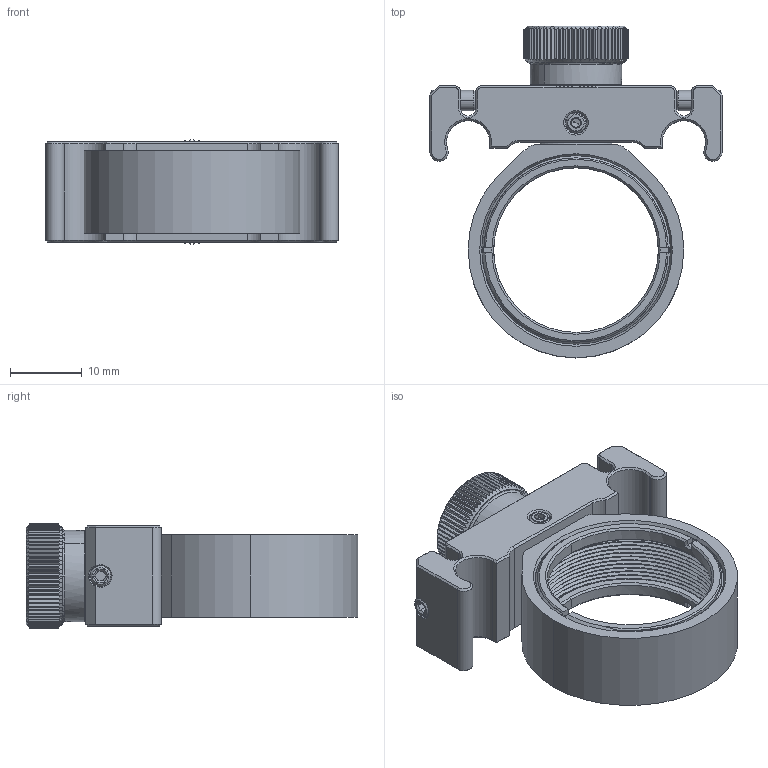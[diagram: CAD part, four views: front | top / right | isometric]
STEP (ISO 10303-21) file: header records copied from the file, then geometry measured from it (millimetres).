
FILE_DESCRIPTION((''),'2;1');
FILE_NAME('CP360R_M-STEP_ASM','2021-04-22T',('Administrator'),(''),'CREO PARAMETRIC BY PTC INC, 2015290','CREO PARAMETRIC BY PTC INC, 2015290','');
FILE_SCHEMA(('CONFIG_CONTROL_DESIGN'));
Length unit declared in the file: millimetre
Products named in the file (11): 24333-002-1-SOLID1; SS4S025-1-2-SOLID1; WW025S014-1-1-SOLID1; 24332-002-1-SOLID1; 0082-001-1-SOLID1_1; SS4SB013-1-1-SOLID1; SS4S025-1-1-SOLID1; 24333-001-1-SOLID1; 24333-E0W_ASM; SS4SB013-1-1-SOLID1_BZ; CP360R_M-STEP_ASM
Assembly tree (11 placements, depth 3):
  CP360R_M-STEP_ASM
    24333-E0W_ASM
      24333-002-1-SOLID1
      SS4S025-1-2-SOLID1
      WW025S014-1-1-SOLID1
      24332-002-1-SOLID1
      0082-001-1-SOLID1_1
      SS4SB013-1-1-SOLID1
      SS4S025-1-1-SOLID1
      24333-001-1-SOLID1
    0082-001-1-SOLID1_1
    SS4SB013-1-1-SOLID1_BZ
Bounding box: 40.64 x 46.17 x 14.47 mm (x, y, z)
Volume: 7506.3 mm3; surface area: 8086.7 mm2
Topology: 10 solids, 10 shells, 1817 faces, 4857 edges, 3128 vertices
Faces by surface type: plane 1254, cylinder 278, cone 164, bspline 99, sphere 18, torus 4
Entity records: 68183 total; most frequent: CARTESIAN_POINT 25315, ORIENTED_EDGE 9414, DIRECTION 7844, EDGE_CURVE 4707, VECTOR 3432, LINE 3432, VERTEX_POINT 3052, AXIS2_PLACEMENT_3D 2206
